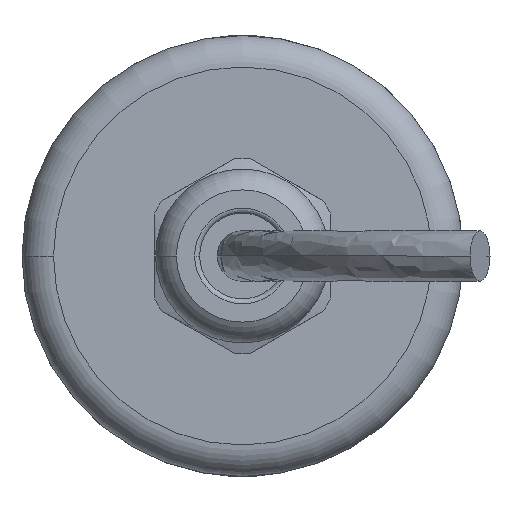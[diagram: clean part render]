
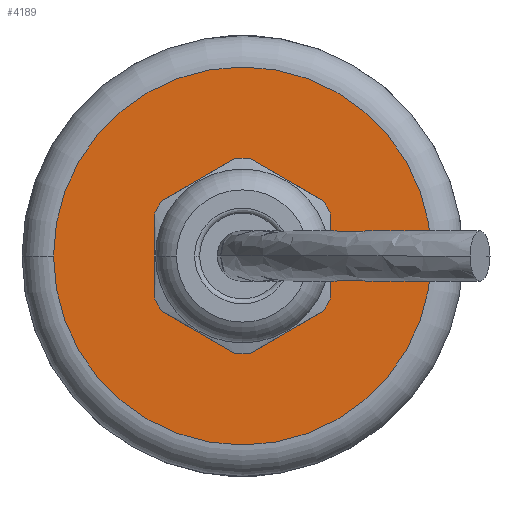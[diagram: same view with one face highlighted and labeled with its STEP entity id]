
A CAD part, left-side view. The second image highlights one B-rep face of the part: STEP entity #4189.
In plain terms, the highlighted planar face has unit normal (-1, 0, 0).
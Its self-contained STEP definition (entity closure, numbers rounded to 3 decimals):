
#7 = CIRCLE ( 'NONE', #4353, 15. ) ;
#62 = EDGE_CURVE ( 'NONE', #2943, #599, #1550, .T. ) ;
#435 = FACE_OUTER_BOUND ( 'NONE', #1922, .T. ) ;
#472 = DIRECTION ( 'NONE',  ( 0., -1., 0. ) ) ;
#536 = EDGE_LOOP ( 'NONE', ( #3928, #3466 ) ) ;
#599 = VERTEX_POINT ( 'NONE', #1373 ) ;
#732 = DIRECTION ( 'NONE',  ( 1., 0., 0. ) ) ;
#786 = CARTESIAN_POINT ( 'NONE',  ( -49.15, -7.765, -0.724 ) ) ;
#1101 = DIRECTION ( 'NONE',  ( 0., -1., 0. ) ) ;
#1139 = CARTESIAN_POINT ( 'NONE',  ( -49.15, 5.835, -0.724 ) ) ;
#1280 = DIRECTION ( 'NONE',  ( -1., 0., 0. ) ) ;
#1373 = CARTESIAN_POINT ( 'NONE',  ( -49.15, -15.965, -0.724 ) ) ;
#1412 = PLANE ( 'NONE',  #2408 ) ;
#1548 = DIRECTION ( 'NONE',  ( 0., -1., 0. ) ) ;
#1550 = CIRCLE ( 'NONE', #3044, 15. ) ;
#1730 = AXIS2_PLACEMENT_3D ( 'NONE', #3678, #3703, #472 ) ;
#1825 = DIRECTION ( 'NONE',  ( 1., 0., 0. ) ) ;
#1868 = CARTESIAN_POINT ( 'NONE',  ( -49.15, -0.965, -0.724 ) ) ;
#1871 = ORIENTED_EDGE ( 'NONE', *, *, #3951, .T. ) ;
#1922 = EDGE_LOOP ( 'NONE', ( #1871, #4035 ) ) ;
#2141 = CARTESIAN_POINT ( 'NONE',  ( -49.15, -0.965, -0.724 ) ) ;
#2162 = DIRECTION ( 'NONE',  ( 0., -1., 0. ) ) ;
#2408 = AXIS2_PLACEMENT_3D ( 'NONE', #1868, #732, #2162 ) ;
#2471 = DIRECTION ( 'NONE',  ( 0., -1., 0. ) ) ;
#2625 = CARTESIAN_POINT ( 'NONE',  ( -49.15, -0.965, -0.724 ) ) ;
#2743 = EDGE_CURVE ( 'NONE', #4384, #4413, #3750, .T. ) ;
#2851 = AXIS2_PLACEMENT_3D ( 'NONE', #3901, #1825, #2471 ) ;
#2943 = VERTEX_POINT ( 'NONE', #3482 ) ;
#3044 = AXIS2_PLACEMENT_3D ( 'NONE', #2141, #4317, #1101 ) ;
#3258 = EDGE_CURVE ( 'NONE', #4413, #4384, #4570, .T. ) ;
#3466 = ORIENTED_EDGE ( 'NONE', *, *, #3258, .T. ) ;
#3482 = CARTESIAN_POINT ( 'NONE',  ( -49.15, 14.035, -0.724 ) ) ;
#3591 = FACE_BOUND ( 'NONE', #536, .T. ) ;
#3678 = CARTESIAN_POINT ( 'NONE',  ( -49.15, -0.965, -0.724 ) ) ;
#3703 = DIRECTION ( 'NONE',  ( 1., 0., 0. ) ) ;
#3750 = CIRCLE ( 'NONE', #1730, 6.8 ) ;
#3901 = CARTESIAN_POINT ( 'NONE',  ( -49.15, -0.965, -0.724 ) ) ;
#3928 = ORIENTED_EDGE ( 'NONE', *, *, #2743, .T. ) ;
#3951 = EDGE_CURVE ( 'NONE', #599, #2943, #7, .T. ) ;
#4035 = ORIENTED_EDGE ( 'NONE', *, *, #62, .T. ) ;
#4189 = ADVANCED_FACE ( 'NONE', ( #3591, #435 ), #1412, .F. ) ;
#4317 = DIRECTION ( 'NONE',  ( -1., 0., 0. ) ) ;
#4353 = AXIS2_PLACEMENT_3D ( 'NONE', #2625, #1280, #1548 ) ;
#4384 = VERTEX_POINT ( 'NONE', #786 ) ;
#4413 = VERTEX_POINT ( 'NONE', #1139 ) ;
#4570 = CIRCLE ( 'NONE', #2851, 6.8 ) ;
